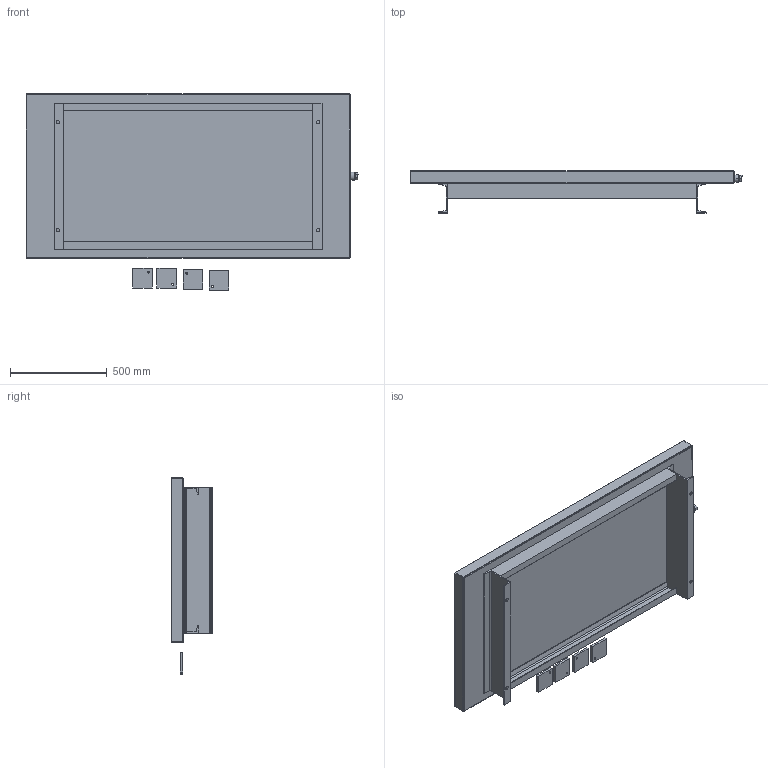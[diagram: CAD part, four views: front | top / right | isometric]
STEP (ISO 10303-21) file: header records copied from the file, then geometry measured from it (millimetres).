
FILE_DESCRIPTION (( 'STEP AP214' ), '1' );
FILE_NAME ('TDP-100.STEP', '2026-04-22T11:18:31', ( '' ), ( '' ), 'SwSTEP 2.0', 'SolidWorks 2026', '' );
FILE_SCHEMA (( 'AUTOMOTIVE_DESIGN' ));
Length unit declared in the file: inch
Products named in the file (7): #12 SAE PLUG; TDP-100; #12 SAE DRAIN; TDP-PAD; C6-TDP-100_Default<As Welded>; C3-TDP-100_Default<As Welded>
Assembly tree (11 placements, depth 2):
  TDP-100
    TDP-100
    C6-TDP-100_Default<As Welded>  x2
    C3-TDP-100_Default<As Welded>  x2
    #12 SAE DRAIN
    #12 SAE PLUG
    TDP-PAD  x4
Bounding box: 1717.67 x 215.9 x 1014.89 mm (x, y, z)
Volume: 11398696.6 mm3; surface area: 5006749.3 mm2
Topology: 11 solids, 11 shells, 163 faces, 378 edges, 240 vertices
Faces by surface type: plane 99, cylinder 50, bspline 8, cone 6
Entity records: 3752 total; most frequent: CARTESIAN_POINT 1105, DIRECTION 498, ORIENTED_EDGE 480, EDGE_CURVE 240, LINE 168, VECTOR 168, AXIS2_PLACEMENT_3D 165, VERTEX_POINT 148
